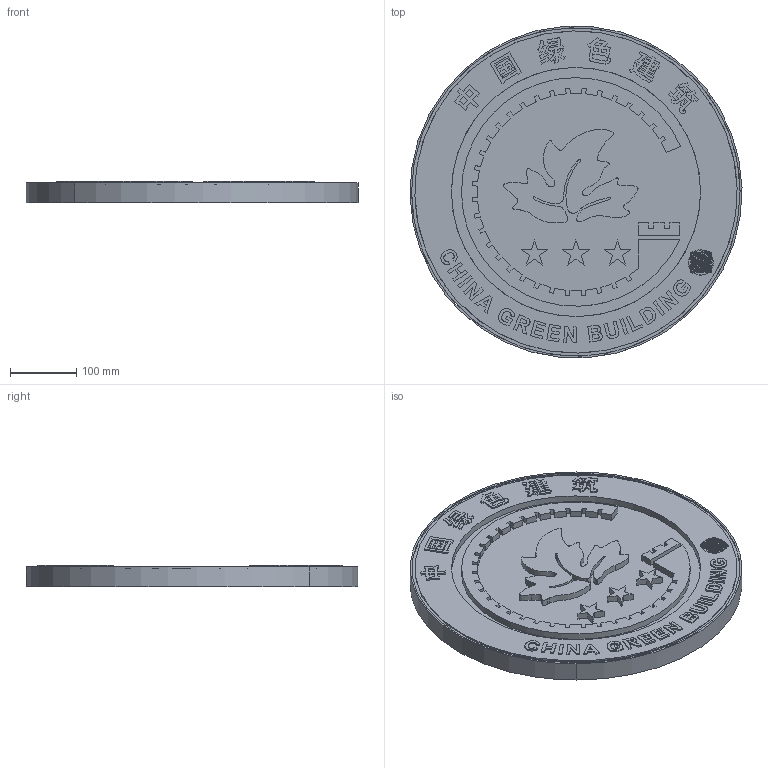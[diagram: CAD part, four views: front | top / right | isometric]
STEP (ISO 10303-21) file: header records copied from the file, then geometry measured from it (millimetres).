
FILE_DESCRIPTION(/* description */ (''),/* implementation_level */ '2;1');
FILE_NAME(/* name */ '202105~4',/* time_stamp */ '2021-05-11T18:10:15+08:00',/* author */ (''),/* organization */ (''),/* preprocessor_version */ 'ST-DEVELOPER v15',/* originating_system */ '',/* authorisation */ '');
FILE_SCHEMA (('AUTOMOTIVE_DESIGN'));
Length unit declared in the file: millimetre
Products named in the file (1): Document
Bounding box: 499.79 x 498.89 x 32.25 mm (x, y, z)
Volume: 5136831.1 mm3; surface area: 819282.5 mm2
Topology: 293 solids, 293 shells, 2278 faces, 5084 edges, 3392 vertices
Faces by surface type: bspline 1463, plane 815
Entity records: 81341 total; most frequent: CARTESIAN_POINT 45904, ORIENTED_EDGE 10152, B_SPLINE_CURVE_WITH_KNOTS 5084, EDGE_CURVE 5076, VERTEX_POINT 3384, EDGE_LOOP 2320, ADVANCED_FACE 2278, FACE_OUTER_BOUND 2278
